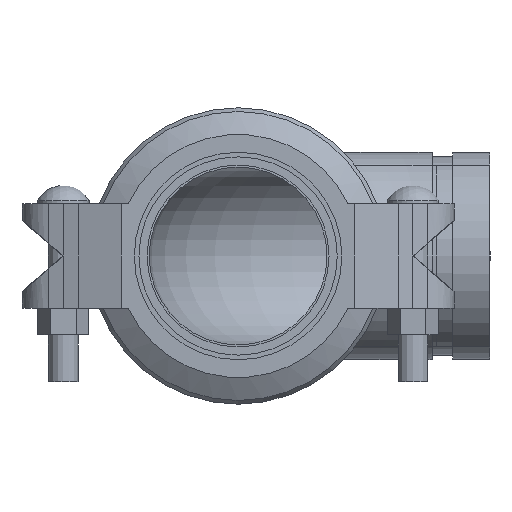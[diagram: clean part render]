
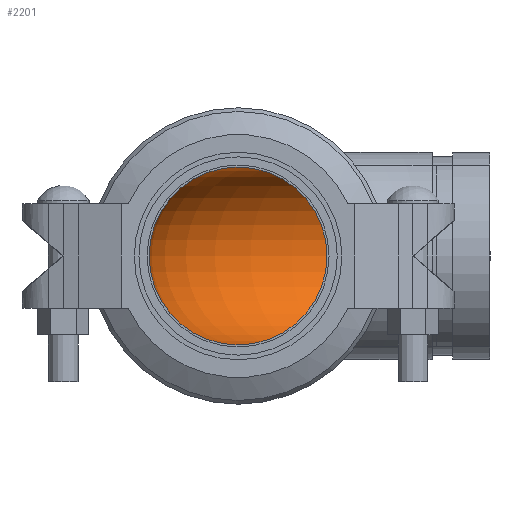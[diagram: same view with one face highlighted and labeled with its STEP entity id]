
A CAD part, left-side view. The second image highlights one B-rep face of the part: STEP entity #2201.
In plain terms, the highlighted toroidal (fillet/blend) face has major radius 84.938 mm and minor radius 38.964 mm.
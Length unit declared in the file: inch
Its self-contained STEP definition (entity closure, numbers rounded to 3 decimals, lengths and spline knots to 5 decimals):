
#62=TOROIDAL_SURFACE('',#2430,3.344,1.534);
#484=FACE_OUTER_BOUND('',#605,.T.);
#605=EDGE_LOOP('',(#1403,#1404,#1405,#1406,#1407,#1408));
#743=CIRCLE('',#2427,1.534);
#744=CIRCLE('',#2428,1.534);
#746=CIRCLE('',#2431,1.534);
#747=CIRCLE('',#2432,1.81);
#748=CIRCLE('',#2433,1.534);
#859=VERTEX_POINT('',#3504);
#860=VERTEX_POINT('',#3505);
#862=VERTEX_POINT('',#3512);
#863=VERTEX_POINT('',#3513);
#1071=EDGE_CURVE('',#859,#860,#743,.T.);
#1072=EDGE_CURVE('',#860,#859,#744,.T.);
#1075=EDGE_CURVE('',#862,#863,#746,.T.);
#1076=EDGE_CURVE('',#863,#860,#747,.T.);
#1077=EDGE_CURVE('',#863,#862,#748,.T.);
#1403=ORIENTED_EDGE('',*,*,#1075,.T.);
#1404=ORIENTED_EDGE('',*,*,#1076,.T.);
#1405=ORIENTED_EDGE('',*,*,#1071,.F.);
#1406=ORIENTED_EDGE('',*,*,#1072,.F.);
#1407=ORIENTED_EDGE('',*,*,#1076,.F.);
#1408=ORIENTED_EDGE('',*,*,#1077,.T.);
#2201=ADVANCED_FACE('',(#484),#62,.F.);
#2427=AXIS2_PLACEMENT_3D('',#3506,#2700,#2701);
#2428=AXIS2_PLACEMENT_3D('',#3507,#2702,#2703);
#2430=AXIS2_PLACEMENT_3D('',#3511,#2707,#2708);
#2431=AXIS2_PLACEMENT_3D('',#3514,#2709,#2710);
#2432=AXIS2_PLACEMENT_3D('',#3515,#2711,#2712);
#2433=AXIS2_PLACEMENT_3D('',#3516,#2713,#2714);
#2700=DIRECTION('center_axis',(0.,1.,0.));
#2701=DIRECTION('ref_axis',(1.,0.,0.));
#2702=DIRECTION('center_axis',(0.,1.,0.));
#2703=DIRECTION('ref_axis',(1.,0.,0.));
#2707=DIRECTION('center_axis',(0.,0.,1.));
#2708=DIRECTION('ref_axis',(1.,0.,0.));
#2709=DIRECTION('center_axis',(1.,0.,0.));
#2710=DIRECTION('ref_axis',(0.,-1.,0.));
#2711=DIRECTION('center_axis',(0.,0.,1.));
#2712=DIRECTION('ref_axis',(1.,0.,0.));
#2713=DIRECTION('center_axis',(1.,0.,0.));
#2714=DIRECTION('ref_axis',(0.,-1.,0.));
#3504=CARTESIAN_POINT('',(-1.534,-3.344,0.));
#3505=CARTESIAN_POINT('',(1.534,-3.344,0.));
#3506=CARTESIAN_POINT('Origin',(0.,-3.344,
0.));
#3507=CARTESIAN_POINT('Origin',(0.,-3.344,
0.));
#3511=CARTESIAN_POINT('Origin',(3.344,-3.344,0.));
#3512=CARTESIAN_POINT('',(3.344,1.534,0.));
#3513=CARTESIAN_POINT('',(3.344,-1.534,0.));
#3514=CARTESIAN_POINT('Origin',(3.344,0.,0.));
#3515=CARTESIAN_POINT('Origin',(3.344,-3.344,0.));
#3516=CARTESIAN_POINT('Origin',(3.344,0.,0.));
